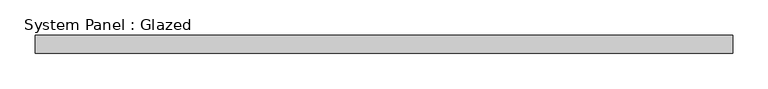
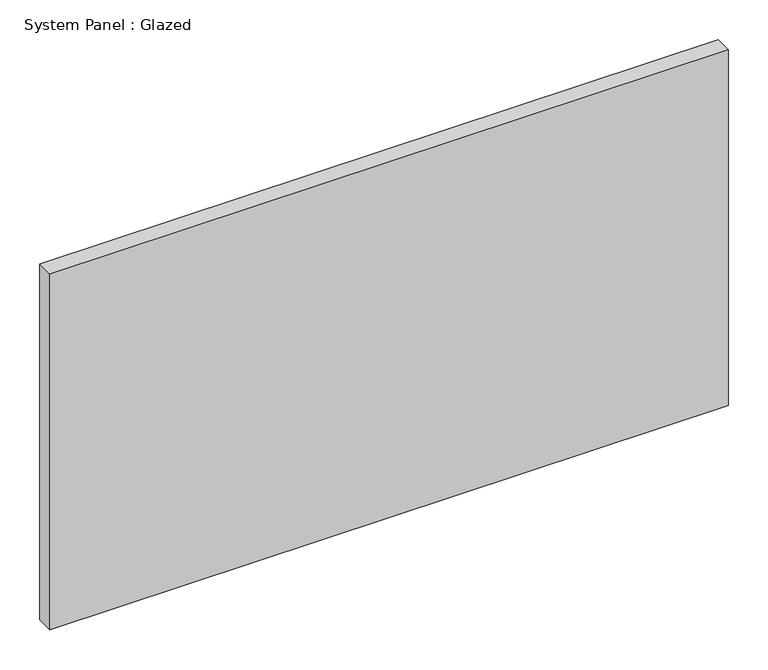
"""IFC4 building model written with IfcOpenShell, lengths in millimetres: plate geometry, System Panel : Glazed."""

from ifc_helpers import new_model, si_unit, origin, origin_with_axes, place, context, project, spatial, polyline, outline, extrude, source, transform, mapped, element, save


def system_panel_glazed_7c8764a7(model_context):
    return source(origin(), model_context, "Body", "SweptSolid", [
        extrude(outline(polyline([(492.1249999, 19.05), (-492.1249999, 19.05), (-492.1249999, 44.45), (492.1249999, 44.45), (492.1249999, 19.05)])), origin_with_axes(), (0.0, 0.0, 1.0), 546.1),
    ])


if __name__ == "__main__":
    model = new_model("IFC4")
    model_context = context("Model", 3, world=origin())
    ifc_project = project(units=[si_unit("LENGTHUNIT", "METRE", prefix="MILLI")], contexts=[model_context])
    site = spatial("IfcSite", under=ifc_project)
    building = spatial("IfcBuilding", under=site)
    placement = place(None, origin())
    system_panel_glazed_shape = system_panel_glazed_7c8764a7(model_context)
    element("IfcPlate", 1, ObjectType="System Panel : Glazed", at=placement, inside=building, context=model_context, shape_type="MappedRepresentation", body=[
        mapped(system_panel_glazed_shape, transform((0.0, 0.0, 0.0), x_axis=(1.0, 0.0, 0.0), y_axis=(0.0, 1.0, 0.0), z_axis=(0.0, 0.0, 1.0))),
    ])
    save(model, "model.ifc")
